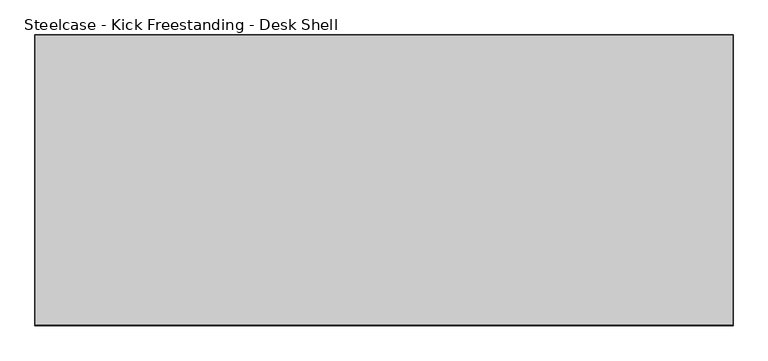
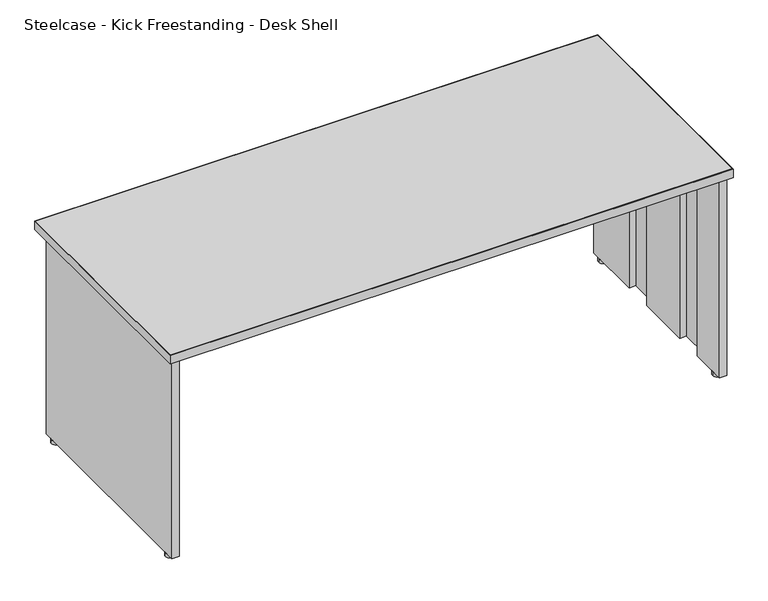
"""IFC4 building model written with IfcOpenShell, lengths in millimetres: furniture geometry, Steelcase - Kick Freestanding - Desk Shell : 30D x 72W."""

from ifc_helpers import new_model, si_unit, point, frame, frame_2d, origin, origin_with_axes, place, context, project, spatial, polyline, circle_curve, trimmed, segment, composite_curve, outline, extrude, source, transform, mapped, element, save


def steelcase_kick_freestanding_desk_shell_3137efd5(model_context):
    return source(origin(), model_context, "Body", "SweptSolid", [
        extrude(outline(composite_curve([segment(trimmed(circle_curve(frame_2d((665.1357759, -1004.2087877)), 13.97), [point((651.1657759, -1004.2087877))], [point((679.1057759, -1004.2087877))], False, "CARTESIAN"), True, "CONTINUOUS"), segment(trimmed(circle_curve(frame_2d((665.1357759, -1004.2087877)), 13.97), [point((679.1057759, -1004.2087877))], [point((651.1657759, -1004.2087877))], False, "CARTESIAN"), True, "CONTINUOUS")], self_intersect=False)), origin_with_axes(), (0.0, 0.0, 1.0), 12.446),
        extrude(outline(composite_curve([segment(trimmed(circle_curve(frame_2d((665.1357759, -1646.0441481)), 13.97), [point((651.1657759, -1646.0441481))], [point((679.1057759, -1646.0441481))], False, "CARTESIAN"), True, "CONTINUOUS"), segment(trimmed(circle_curve(frame_2d((665.1357759, -1646.0441481)), 13.97), [point((679.1057759, -1646.0441481))], [point((651.1657759, -1646.0441481))], False, "CARTESIAN"), True, "CONTINUOUS")], self_intersect=False)), origin_with_axes(), (0.0, 0.0, 1.0), 12.446),
        extrude(outline(polyline([(2431.4738425, -1172.2529604), (2431.4738425, -972.7867604), (2455.9594421, -972.7867604), (2455.9594421, -1680.938741), (2431.4738421, -1680.938741), (2431.4738421, -1556.6311348), (2453.9020425, -1556.6311348), (2453.9020425, -1456.9107682), (2431.4738421, -1456.9107682), (2431.4738421, -1271.9733647), (2453.9020425, -1271.9733647), (2453.9020425, -1172.2529604), (2431.4738425, -1172.2529604)])), frame((0.0, 0.0, 12.446), z_axis=(0.0, 0.0, 1.0), x_axis=(1.0, 0.0, 0.0)), (0.0, 0.0, 1.0), 682.498),
        extrude(outline(polyline([(677.0450425, -1172.2529604), (654.6168425, -1172.2529604), (654.6168425, -1271.9733647), (677.0450429, -1271.9733647), (677.0450429, -1456.9107682), (654.6168425, -1456.9107682), (654.6168425, -1556.6311348), (677.0450429, -1556.6311348), (677.0450429, -1680.938741), (652.5594429, -1680.938741), (652.5594429, -972.7867604), (677.0450425, -972.7867604), (677.0450425, -1172.2529604)])), frame((0.0, 0.0, 12.446), z_axis=(0.0, 0.0, 1.0), x_axis=(1.0, 0.0, 0.0)), (0.0, 0.0, 1.0), 682.498),
        extrude(outline(polyline([(2467.6688425, -932.6293604), (2467.6688425, -1690.6669215), (640.8500425, -1690.6669215), (640.8500425, -932.6293604), (2467.6688425, -932.6293604)])), frame((0.0, 0.0, 694.944), z_axis=(0.0, 0.0, 1.0), x_axis=(1.0, 0.0, 0.0)), (0.0, 0.0, 1.0), 28.956),
        extrude(outline(polyline([(2468.6594425, -931.6387604), (2468.6594425, -1693.6387604), (639.8594425, -1693.6387604), (639.8594425, -931.6387604), (2468.6594425, -931.6387604)]), holes=[polyline([(2467.6688425, -932.6293604), (640.8500425, -932.6293604), (640.8500425, -1690.6669215), (2467.6688425, -1690.6669215), (2467.6688425, -932.6293604)])]), frame((0.0, 0.0, 694.944), z_axis=(0.0, 0.0, 1.0), x_axis=(1.0, 0.0, 0.0)), (0.0, 0.0, 1.0), 28.956),
        extrude(outline(composite_curve([segment(trimmed(circle_curve(frame_2d((2443.3831091, -1646.0441481)), 13.97), [point((2429.4131091, -1646.0441481))], [point((2457.3531091, -1646.0441481))], False, "CARTESIAN"), True, "CONTINUOUS"), segment(trimmed(circle_curve(frame_2d((2443.3831091, -1646.0441481)), 13.97), [point((2457.3531091, -1646.0441481))], [point((2429.4131091, -1646.0441481))], False, "CARTESIAN"), True, "CONTINUOUS")], self_intersect=False)), origin_with_axes(), (0.0, 0.0, 1.0), 12.446),
        extrude(outline(composite_curve([segment(trimmed(circle_curve(frame_2d((2443.3831091, -1004.2087877)), 13.97), [point((2457.3531091, -1004.2087877))], [point((2429.4131091, -1004.2087877))], False, "CARTESIAN"), True, "CONTINUOUS"), segment(trimmed(circle_curve(frame_2d((2443.3831091, -1004.2087877)), 13.97), [point((2429.4131091, -1004.2087877))], [point((2457.3531091, -1004.2087877))], False, "CARTESIAN"), True, "CONTINUOUS")], self_intersect=False)), origin_with_axes(), (0.0, 0.0, 1.0), 12.446),
    ])


if __name__ == "__main__":
    model = new_model("IFC4")
    model_context = context("Model", 3, world=origin())
    ifc_project = project(units=[si_unit("LENGTHUNIT", "METRE", prefix="MILLI")], contexts=[model_context])
    site = spatial("IfcSite", under=ifc_project)
    building = spatial("IfcBuilding", under=site)
    placement = place(None, origin())
    steelcase_kick_freestanding_desk_shell_shape = steelcase_kick_freestanding_desk_shell_3137efd5(model_context)
    element("IfcFurniture", 1, ObjectType="Steelcase - Kick Freestanding - Desk Shell : 30D x 72W", at=placement, inside=building, context=model_context, shape_type="MappedRepresentation", body=[
        mapped(steelcase_kick_freestanding_desk_shell_shape, transform((0.0, 0.0, 0.0), x_axis=(1.0, 0.0, 0.0), y_axis=(0.0, 1.0, 0.0), z_axis=(0.0, 0.0, 1.0))),
    ])
    save(model, "model.ifc")
